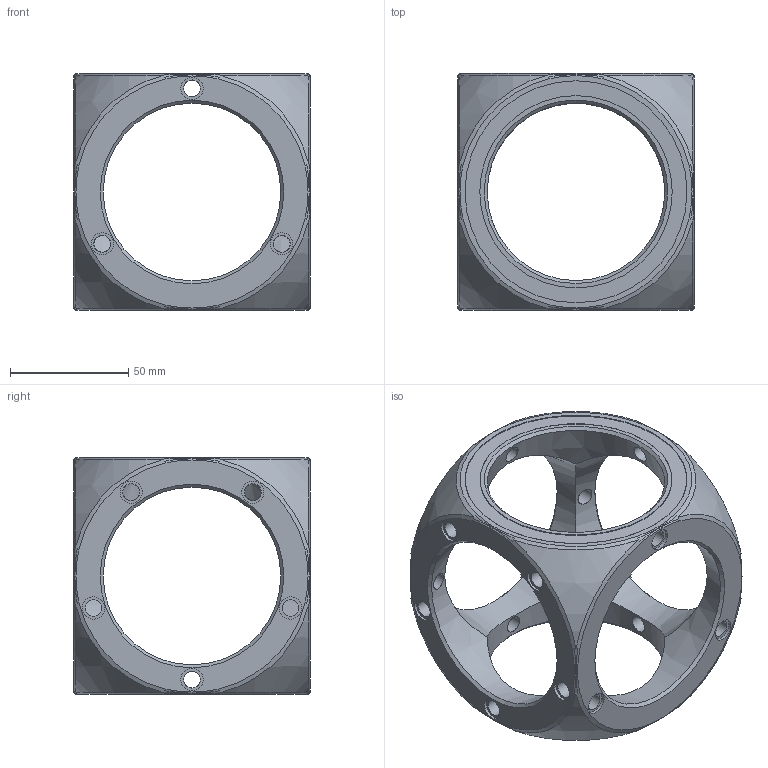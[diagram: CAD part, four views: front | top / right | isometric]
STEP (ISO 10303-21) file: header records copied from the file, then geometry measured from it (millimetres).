
FILE_DESCRIPTION(/* description */ (''),/* implementation_level */ '2;1');
FILE_NAME(/* name */ 'Ultra Dice v2.stp',/* time_stamp */ '2016-09-29T09:50:31-07:00',/* author */ (''),/* organization */ (''),/* preprocessor_version */ 'ST-DEVELOPER v16',/* originating_system */ 'SIEMENS PLM Software NX 10.0',/* authorisation */ '');
FILE_SCHEMA (('AUTOMOTIVE_DESIGN { 1 0 10303 214 3 1 1 1 }'));
Length unit declared in the file: inch
Products named in the file (1): MGra083C8BEA9vad
Bounding box: 100 x 100 x 100 mm (x, y, z)
Volume: 202401.1 mm3; surface area: 51933.4 mm2
Topology: 1 solids, 1 shells, 180 faces, 428 edges, 266 vertices
Faces by surface type: bspline 72, cylinder 37, cone 35, plane 28, sphere 8
Full cylindrical faces by diameter (mm): 7.112 x14, 9.375 x20, 75 x1, 81.25 x1, 93.75 x1
Entity records: 8403 total; most frequent: CARTESIAN_POINT 4366, ORIENTED_EDGE 728, DIRECTION 646, EDGE_CURVE 364, EDGE_LOOP 282, AXIS2_PLACEMENT_3D 275, VERTEX_POINT 250, ADVANCED_FACE 180
